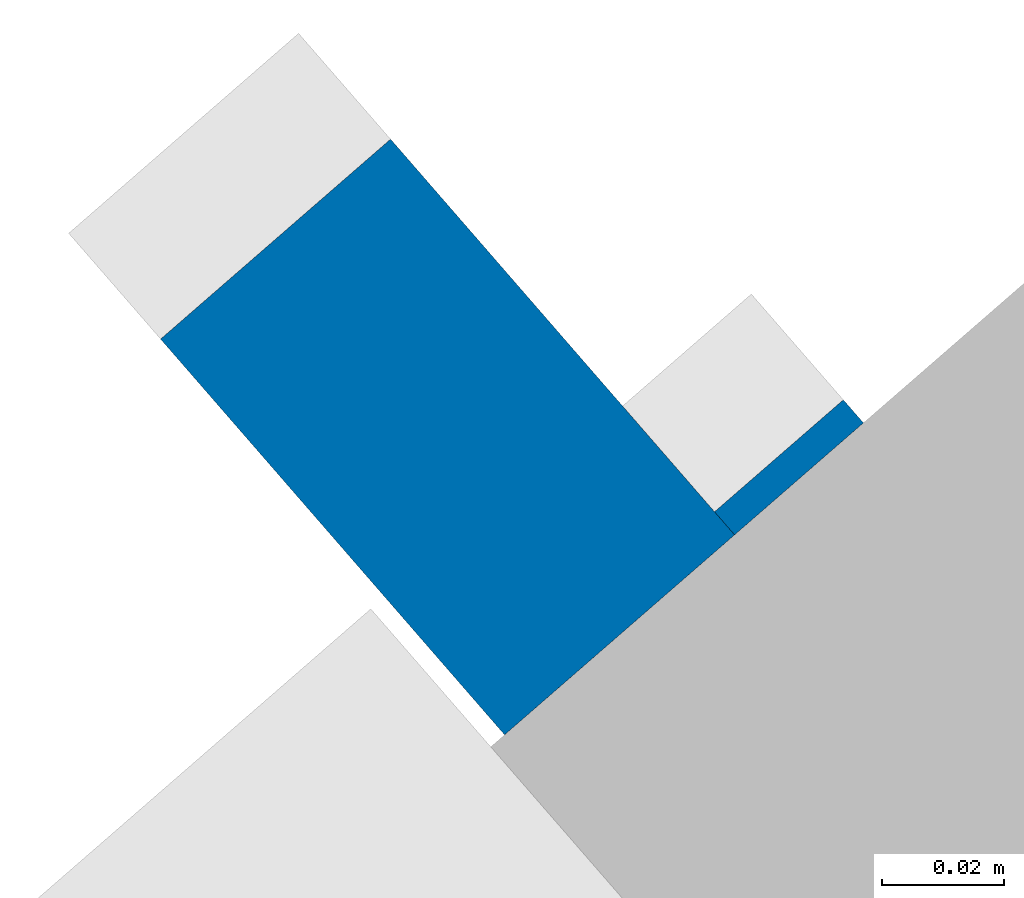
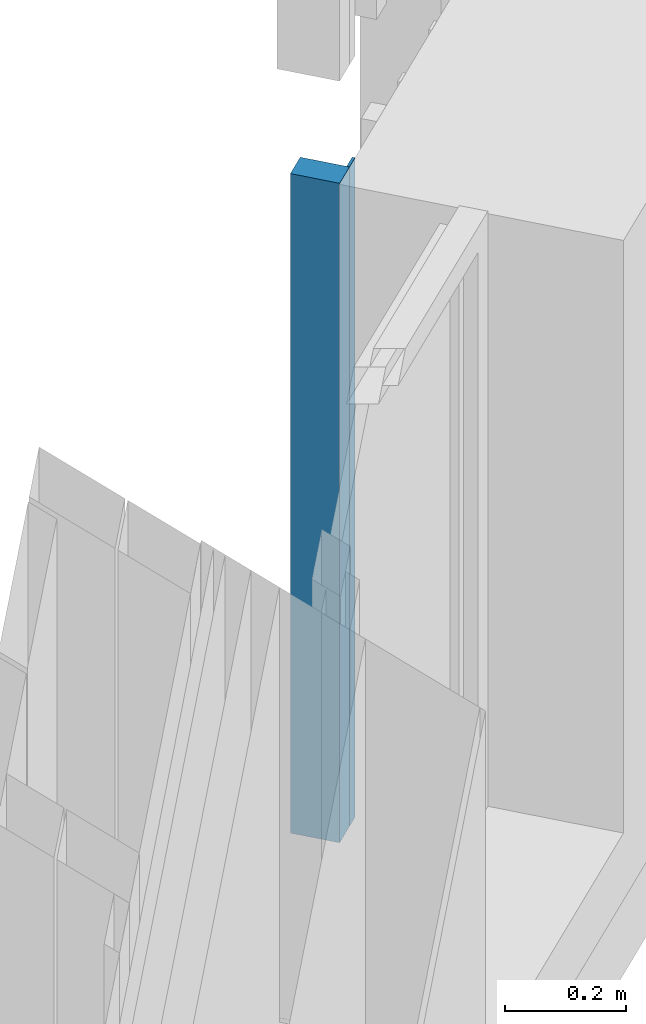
# One storey, part 240 of 390: 2 walls.
"""IFC2X3 building model written with IfcOpenShell, lengths in millimetres."""

import ifcopenshell
import ifcopenshell.guid

model = None  # the IFC model being written
_history = None  # IfcOwnerHistory: only IFC2X3 demands one
_inside = {}  # id of a spatial element -> (the spatial element, [elements in it])
_under = {}  # id of a project, library or spatial element -> (it, [spatial elements below it])
_declared = {}  # id of a project -> (the project, [libraries it declares])
_typed = {}  # id of a type object -> (the type object, [elements of that type])
_made_of = {}  # id of a material, layer set ... -> (it, [elements and type objects made of it])


def new_model(schema):
    """Start an empty IFC model of exactly this schema.

    Asked for "IFC4X3", IfcOpenShell would pick the latest addendum, in which some entities
    have other attributes; the version numbers below select the first issue.
    IFC2X3 requires an IfcOwnerHistory on every rooted entity: one is made here for all.
    """
    global model, _history
    if schema == "IFC4X3":
        model = ifcopenshell.file(schema_version=(4, 3, 0, 0))
    else:
        model = ifcopenshell.file(schema=schema)
    _inside.clear()
    _under.clear()
    _declared.clear()
    _typed.clear()
    _made_of.clear()
    _history = None
    if model.schema == "IFC2X3":
        org = make("IfcOrganization", Name="unknown")
        user = make(
            "IfcPersonAndOrganization",
            ThePerson=make("IfcPerson", FamilyName="unknown"),
            TheOrganization=org,
        )
        app = make(
            "IfcApplication",
            ApplicationDeveloper=org,
            Version="unknown",
            ApplicationFullName="unknown",
            ApplicationIdentifier="unknown",
        )
        _history = make(
            "IfcOwnerHistory",
            OwningUser=user,
            OwningApplication=app,
            ChangeAction="ADDED",
            CreationDate=0,
        )
    return model


def make(cls, **values):
    """One entity of the class cls with the attributes given. An attribute that is None is left unset."""
    return model.create_entity(
        cls, **{name: value for name, value in values.items() if value is not None}
    )


def entity(cls, *values):
    """Any entity or typed value of the class cls, its attributes in the order of the schema. None: left unset."""
    e = model.create_entity(cls)
    for i, value in enumerate(values):
        if value is not None:
            e[i] = value
    return e


def rooted(cls, **values):
    """An entity with a GlobalId (a new one), such as an element, a storey or a relation."""
    return make(cls, GlobalId=ifcopenshell.guid.new(), OwnerHistory=_history, **values)


def si_unit(unit_type, name, prefix=None):
    """IfcSIUnit, for example si_unit("LENGTHUNIT", "METRE", prefix="MILLI")."""
    return make("IfcSIUnit", UnitType=unit_type, Prefix=prefix, Name=name)


def converted_unit(unit_type, name, factor, base, dimensions=None, offset=None):
    """IfcConversionBasedUnit, such as the inch: factor (a typed value) times the base unit."""
    return make(
        "IfcConversionBasedUnit"
        if offset is None
        else "IfcConversionBasedUnitWithOffset",
        ConversionOffset=offset,
        Dimensions=None
        if dimensions is None
        else entity("IfcDimensionalExponents", *dimensions),
        UnitType=unit_type,
        Name=name,
        ConversionFactor=make(
            "IfcMeasureWithUnit", ValueComponent=factor, UnitComponent=base
        ),
    )


def derived_unit(unit_type, elements):
    """IfcDerivedUnit: a product of units, each with its exponent."""
    return make(
        "IfcDerivedUnit",
        Elements=[
            make("IfcDerivedUnitElement", Unit=unit, Exponent=power)
            for unit, power in elements
        ],
        UnitType=unit_type,
    )


def money_unit(currency):
    """IfcMonetaryUnit."""
    return make("IfcMonetaryUnit", Currency=currency)


def assignment(units):
    """IfcUnitAssignment: the units of a project."""
    return None if units is None else make("IfcUnitAssignment", Units=units)


def point(xyz):
    """IfcCartesianPoint."""
    return None if xyz is None else make("IfcCartesianPoint", Coordinates=xyz)


def direction(xyz):
    """IfcDirection."""
    return None if xyz is None else make("IfcDirection", DirectionRatios=xyz)


def frame(location, z_axis=None, x_axis=None):
    """IfcAxis2Placement3D, a coordinate frame: its origin and axes. An axis left out is left unset."""
    return make(
        "IfcAxis2Placement3D",
        Location=point(location),
        Axis=direction(z_axis),
        RefDirection=direction(x_axis),
    )


def origin_with_axes():
    """The frame at (0, 0, 0) with the z axis (0, 0, 1) and the x axis (1, 0, 0) written out."""
    return frame((0.0, 0.0, 0.0), z_axis=(0.0, 0.0, 1.0), x_axis=(1.0, 0.0, 0.0))


def place(relative_to, where):
    """IfcLocalPlacement: puts the frame where relative to a parent placement (None: the world)."""
    return make(
        "IfcLocalPlacement", PlacementRelTo=relative_to, RelativePlacement=where
    )


def context(
    kind, dimensions, precision=None, world=None, true_north=None, identifier=None
):
    """IfcGeometricRepresentationContext, for example the 3D "Model" context."""
    return make(
        "IfcGeometricRepresentationContext",
        ContextIdentifier=identifier,
        ContextType=kind,
        CoordinateSpaceDimension=dimensions,
        Precision=precision,
        WorldCoordinateSystem=world,
        TrueNorth=true_north,
    )


def subcontext(parent, identifier, kind, view, scale=None):
    """IfcGeometricRepresentationSubContext, for example "Body" below "Model"."""
    return make(
        "IfcGeometricRepresentationSubContext",
        ContextIdentifier=identifier,
        ContextType=kind,
        ParentContext=parent,
        TargetScale=scale,
        TargetView=view,
    )


def project(units=None, contexts=None):
    """IfcProject with its units and contexts."""
    return rooted(
        "IfcProject",
        Name="project",
        RepresentationContexts=contexts,
        UnitsInContext=assignment(units),
    )


def spatial(cls, under=None, at=None, **own):
    """A site, building, storey or space (cls), placed at a placement, below another one or the project."""
    s = rooted(cls, ObjectPlacement=at, **own)
    if under is not None:
        _under.setdefault(under.id(), (under, []))[1].append(s)
    return s


def faces_of(points, faces, orient=None, outer=None):
    """IfcFace entities. A face is a list of loops; a loop is a list of indices into points, from 0.

    orient and outer hold one flag for each loop. By default every Orientation is true, the
    first loop of a face is its IfcFaceOuterBound and the others are IfcFaceBound.
    """
    made = []
    for i, loops in enumerate(faces):
        bounds = []
        for j, loop in enumerate(loops):
            is_outer = j == 0 if outer is None else outer[i][j]
            bounds.append(
                make(
                    "IfcFaceOuterBound" if is_outer else "IfcFaceBound",
                    Bound=make("IfcPolyLoop", Polygon=[points[k] for k in loop]),
                    Orientation=True if orient is None else orient[i][j],
                )
            )
        made.append(make("IfcFace", Bounds=bounds))
    return made


def faceted_brep(points, faces, orient=None, outer=None, voids=None):
    """IfcFacetedBrep: a solid bounded by flat faces; with voids (closed shells), ...WithVoids."""
    shared = [point(p) for p in points]
    hull = make("IfcClosedShell", CfsFaces=faces_of(shared, faces, orient, outer))
    if voids is None:
        return make("IfcFacetedBrep", Outer=hull)
    return make(
        "IfcFacetedBrepWithVoids",
        Outer=hull,
        Voids=[
            make(cls, CfsFaces=faces_of(shared, fs, o, b)) for cls, fs, o, b in voids
        ],
    )


def shape(context_of_items, identifier, shape_type, items):
    """IfcShapeRepresentation: the items that make up one representation, for example the "Body"."""
    return make(
        "IfcShapeRepresentation",
        ContextOfItems=context_of_items,
        RepresentationIdentifier=identifier,
        RepresentationType=shape_type,
        Items=items,
    )


def material(Name=None, Category=None):
    """IfcMaterial."""
    return make("IfcMaterial", Name=Name, Category=Category)


def made_of(thing, what):
    """Note that an element or type object is made of a material, layer set ...; save() writes the relation."""
    if what is not None:
        _made_of.setdefault(what.id(), (what, []))[1].append(thing)
    return thing


def type_object(cls, material=None, **own):
    """A type object (cls), such as IfcWallType, which elements share."""
    return made_of(rooted(cls, **own), material)


def element(
    cls,
    number,
    at=None,
    inside=None,
    cuts=None,
    type_object=None,
    material=None,
    context=None,
    identifier="Body",
    shape_type=None,
    held_by="IfcProductDefinitionShape",
    body=None,
    shapes=None,
    **own,
):
    """One element of the class cls, such as IfcWall. Its Tag is "e" and its number.

    at: its placement. inside: the storey or other place that contains it. cuts: it is an
    opening in that element (IfcRelVoidsElement). A single representation is given by context,
    identifier, shape_type and body (its items); several are given by shapes. held_by: the class
    of the entity that holds the representations. save() writes the other relations.
    """
    e = rooted(cls, Tag="e%d" % number, ObjectPlacement=at, **own)
    if body is not None:
        shapes = [shape(context, identifier, shape_type, body)]
    if shapes is not None:
        e.Representation = make(held_by, Representations=shapes)
    if inside is not None:
        _inside.setdefault(inside.id(), (inside, []))[1].append(e)
    if cuts is not None:
        rooted(
            "IfcRelVoidsElement", RelatingBuildingElement=cuts, RelatedOpeningElement=e
        )
    if type_object is not None:
        _typed.setdefault(type_object.id(), (type_object, []))[1].append(e)
    return made_of(e, material)


def aggregate(whole, parts):
    """IfcRelAggregates: a whole, such as a stair, and the parts it consists of."""
    return rooted("IfcRelAggregates", RelatingObject=whole, RelatedObjects=parts)


def save(model, path):
    """Write the relations noted so far, then the file.

    IfcRelAggregates (storeys below a building ...), IfcRelContainedInSpatialStructure (elements
    in a storey), IfcRelDefinesByType, IfcRelAssociatesMaterial and IfcRelDeclares: one each for
    every whole, place, type object, material and project.
    """
    for whole, parts in _under.values():
        aggregate(whole, parts)
    for where, things in _inside.values():
        rooted(
            "IfcRelContainedInSpatialStructure",
            RelatedElements=things,
            RelatingStructure=where,
        )
    for kind, things in _typed.values():
        rooted("IfcRelDefinesByType", RelatedObjects=things, RelatingType=kind)
    for what, things in _made_of.values():
        rooted("IfcRelAssociatesMaterial", RelatedObjects=things, RelatingMaterial=what)
    for by, libraries in _declared.values():
        rooted("IfcRelDeclares", RelatingContext=by, RelatedDefinitions=libraries)
    model.write(path)


model = new_model("IFC2X3")

# Units and contexts
model_context = context("Model", 3, precision=1e-05, world=origin_with_axes(), true_north=direction((0.0, 1.0)))
body_context = subcontext(model_context, "Body", "Model", "MODEL_VIEW")
ifc_project = project(units=[si_unit("LENGTHUNIT", "METRE", prefix="MILLI"), si_unit("AREAUNIT", "SQUARE_METRE"), si_unit("VOLUMEUNIT", "CUBIC_METRE"), converted_unit("PLANEANGLEUNIT", "DEGREE", entity("IfcPlaneAngleMeasure", 0.0174532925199), si_unit("PLANEANGLEUNIT", "RADIAN"), dimensions=[0, 0, 0, 0, 0, 0, 0]), si_unit("SOLIDANGLEUNIT", "STERADIAN"), money_unit("EUR"), converted_unit("TIMEUNIT", "Year", entity("IfcTimeMeasure", 31556926.0), si_unit("TIMEUNIT", "SECOND"), dimensions=[0, 0, 1, 0, 0, 0, 0]), si_unit("MASSUNIT", "GRAM", prefix="KILO"), si_unit("THERMODYNAMICTEMPERATUREUNIT", "DEGREE_CELSIUS"), si_unit("LUMINOUSINTENSITYUNIT", "LUMEN"), si_unit("ENERGYUNIT", "JOULE", prefix="MEGA"), derived_unit("THERMALCONDUCTANCEUNIT", [(si_unit("POWERUNIT", "WATT"), 1), (si_unit("LENGTHUNIT", "METRE"), -1), (si_unit("THERMODYNAMICTEMPERATUREUNIT", "KELVIN"), -1)]), derived_unit("SPECIFICHEATCAPACITYUNIT", [(si_unit("ENERGYUNIT", "JOULE"), 1), (si_unit("MASSUNIT", "GRAM", prefix="KILO"), -1), (si_unit("THERMODYNAMICTEMPERATUREUNIT", "KELVIN"), -1)]), derived_unit("MASSDENSITYUNIT", [(si_unit("MASSUNIT", "GRAM", prefix="KILO"), 1), (si_unit("VOLUMEUNIT", "CUBIC_METRE"), -1)])], contexts=[model_context])

# Site, building, storey
site_placement = place(None, origin_with_axes())
site = spatial("IfcSite", under=ifc_project, at=site_placement, Name="Site", CompositionType="ELEMENT")
building_placement = place(site_placement, origin_with_axes())
building = spatial("IfcBuilding", under=site, at=building_placement, Name="Building", CompositionType="ELEMENT")
storey_placement = place(building_placement, origin_with_axes())
storey = spatial("IfcBuildingStorey", under=building, at=storey_placement, Name="1 korrus", CompositionType="ELEMENT", Elevation=0.0)

# Walls
ifc_material = material(Name="Site specified")
wall_type = type_object("IfcWallType", Name="Puitfassaadi ribistik", PredefinedType="NOTDEFINED")
wall_1_placement = place(storey_placement, frame((143127.406743, 94410.1218461, 0.0), z_axis=(0.0, 0.0, 1.0), x_axis=(0.754709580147, 0.656059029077, 0.0)))
element("IfcWall", 1, at=wall_1_placement, inside=storey, type_object=wall_type, material=ifc_material, Name="Site specified", context=body_context, shape_type="Brep", body=[
    faceted_brep([(-14.0, 14.0, 1330.0), (-14.0, 8.98172567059, 1330.0), (14.0000000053, 8.98165935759, 1330.0), (14.0, 14.0, 1330.0), (-14.0, 14.0, 0.0), (-14.0, 8.97945782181, 0.0), (14.0, 8.97939442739, 0.0), (14.0, 14.0, 0.0)], [[[0, 1, 2, 3]], [[4, 5, 1, 0]], [[5, 6, 2, 1]], [[3, 2, 6, 7]], [[0, 3, 7, 4]], [[7, 6, 5, 4]]]),
])
wall_2_placement = place(storey_placement, frame((143071.402678, 94415.101282, 0.0), z_axis=(0.0, 0.0, 1.0), x_axis=(0.754709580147, 0.656059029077, 0.0)))
element("IfcWall", 2, at=wall_2_placement, inside=storey, type_object=wall_type, material=ifc_material, Name="Site specified", context=body_context, shape_type="Brep", body=[
    faceted_brep([(-25.0, 54.5, 1330.0), (-25.0, -31.5181559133, 1330.0), (25.0000000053, -31.5182743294, 1330.0), (25.0, 54.5, 1330.0), (-25.0, 54.5, 0.0), (-25.0, -31.5204289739, 0.0), (25.0, -31.5205421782, 0.0), (25.0, 54.5, 0.0)], [[[0, 1, 2, 3]], [[4, 5, 1, 0]], [[5, 6, 2, 1]], [[3, 2, 6, 7]], [[0, 3, 7, 4]], [[7, 6, 5, 4]]]),
])

save(model, "model.ifc")
